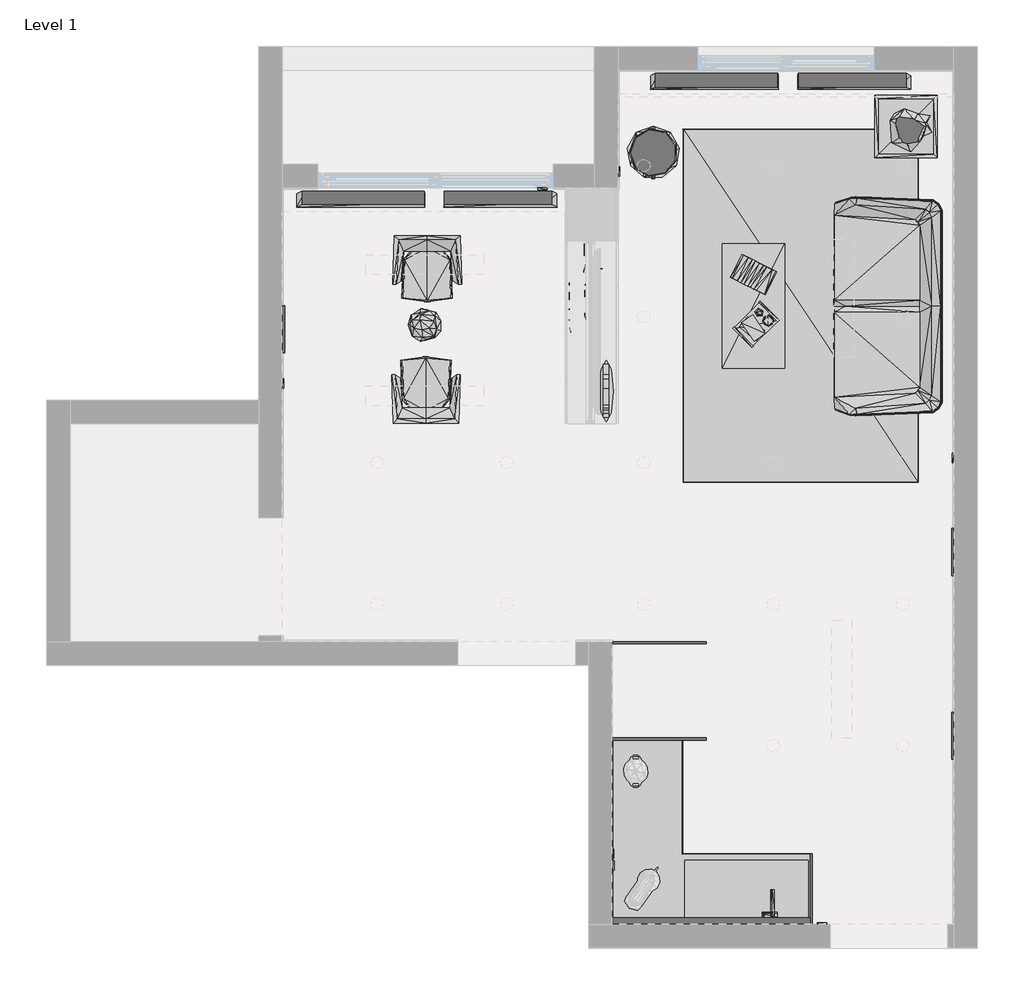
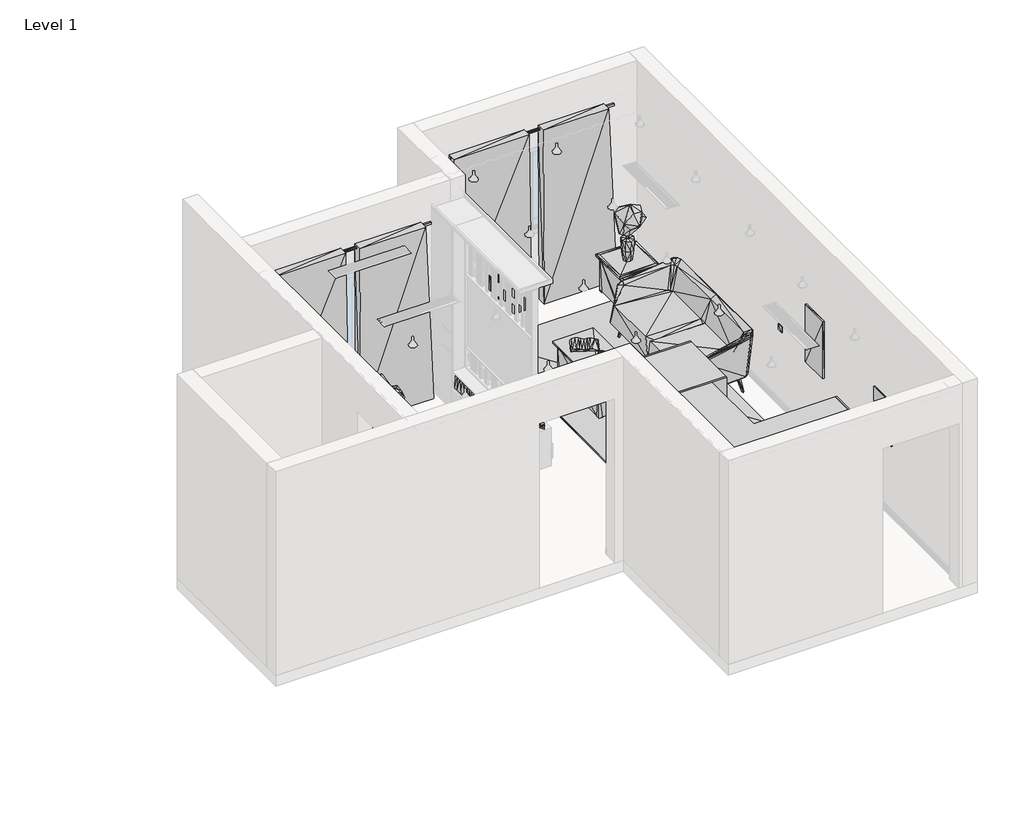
# One storey, part 4 of 4: 28 geographic elements, 2 proxies.
"""IFC4 building model written with IfcOpenShell, lengths in millimetres."""

from ifc_helpers import new_model, si_unit, origin, place, context, project, spatial, transform, mapped, element, save
from components import generic_models_adb6d911, kitchen_kitchen_3edbeb36, geographic_element_de3b21ac, enscape_assetdefinition_books_11_enscape_assetdefinition_afcb8159, enscape_assetdefinition_curtain_09_enscape_assetdefinition_daeb34b5, enscape_assetdefinition_floor_lamp_12_enscape_8a8a6cb6, enscape_assetdefinition_interior_plant_79_enscape_2944c8c8, enscape_assetdefinition_interior_plant_84_enscape_4a8b0236, enscape_assetdefinition_light_switch_enscape_assetdefinition_f65dbdaa, enscape_assetdefinition_lounge_armchair_09_enscape_0de7779d, enscape_assetdefinition_open_book_enscape_assetdefinition_ceea0857, enscape_assetdefinition_photo_frame_enscape_assetdefinition_5837e575, enscape_assetdefinition_picture_frame_portrait_enscape_684294eb, enscape_assetdefinition_power_socket_enscape_assetdefinition_6a6208d7, enscape_assetdefinition_rug_05_enscape_assetdefinition_rug_c4f60c79, enscape_assetdefinition_side_table_06_enscape_d0498537, enscape_assetdefinition_side_table_07_enscape_9afeb607, enscape_assetdefinition_sofa_16_enscape_assetdefinition_sofa_628b30d1, enscape_assetdefinition_tap_enscape_assetdefinition_tap_beeff97c, enscape_assetdefinition_wall_frame_02_enscape_4efbea40, enscape_assetdefinition_wall_frame_03_enscape_afdf1664, enscape_assetdefinition_wall_frame_enscape_assetdefinition_9bfa83ed

model = new_model("IFC4")

# Units and contexts
model_context = context("Model", 3, world=origin())
ifc_project = project(units=[si_unit("LENGTHUNIT", "METRE", prefix="MILLI")], contexts=[model_context])

# Site, building, storey
site = spatial("IfcSite", under=ifc_project)
building = spatial("IfcBuilding", under=site)
storey = spatial("IfcBuildingStorey", under=building, Name="Level 1", Elevation=0.0)

# Proxies
placement = place(None, origin())
generic_models_shape = generic_models_adb6d911(model_context)
element("IfcBuildingElementProxy", 1, Name="ArcPro Statue : ArcPro Statue", ObjectType="ArcPro Statue : ArcPro Statue", at=placement, inside=storey, context=model_context, shape_type="MappedRepresentation", body=[
    mapped(generic_models_shape, transform((-1044.2014964, -1218.7013538, 530.0), x_axis=(0.0, 1.0, 0.0), y_axis=(-1.0, 0.0, 0.0), z_axis=(0.0, 0.0, 1.0))),
])
kitchen_kitchen_shape = kitchen_kitchen_3edbeb36(model_context)
element("IfcBuildingElementProxy", 2, Name="kitchen : kitchen", ObjectType="kitchen : kitchen", at=placement, inside=storey, context=model_context, shape_type="MappedRepresentation", body=[
    mapped(kitchen_kitchen_shape, transform((0.0, 0.0, 0.0), x_axis=(1.0, 0.0, 0.0), y_axis=(0.0, 1.0, 0.0), z_axis=(0.0, 0.0, 1.0))),
])

# Geographic elements
geographic_element_shape = geographic_element_de3b21ac(model_context)
element("IfcGeographicElement", 3, ObjectType="Enscape AssetDefinition - Decoration Collection 02 : Enscape AssetDefinition - Decoration Collection 02", at=placement, inside=storey, context=model_context, shape_type="MappedRepresentation", body=[
    mapped(geographic_element_shape, transform((228.582816, -588.1307609, 499.9), x_axis=(0.7071067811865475, 0.7071067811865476, 0.0), y_axis=(-0.7071067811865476, 0.7071067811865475, 0.0), z_axis=(0.0, 0.0, 1.0))),
])
enscape_assetdefinition_books_11_enscape_assetdefinition_shape = enscape_assetdefinition_books_11_enscape_assetdefinition_afcb8159(model_context)
element("IfcGeographicElement", 4, ObjectType="Enscape AssetDefinition - Books 11 : Enscape AssetDefinition - Books 11", at=placement, inside=storey, context=model_context, shape_type="MappedRepresentation", body=[
    mapped(enscape_assetdefinition_books_11_enscape_assetdefinition_shape, transform((-1288.5397433, -274.0270279, 300.0), x_axis=(0.0, -1.0, 0.0), y_axis=(1.0, 0.0, 0.0), z_axis=(0.0, 0.0, 1.0))),
])
enscape_assetdefinition_curtain_09_enscape_assetdefinition_shape = enscape_assetdefinition_curtain_09_enscape_assetdefinition_daeb34b5(model_context)
element("IfcGeographicElement", 5, ObjectType="Enscape AssetDefinition - Curtain 09 : Enscape AssetDefinition - Curtain 09", at=placement, inside=storey, context=model_context, shape_type="MappedRepresentation", body=[
    mapped(enscape_assetdefinition_curtain_09_enscape_assetdefinition_shape, transform((-2572.1161882, 568.9239272, 0.0), x_axis=(1.0, 0.0, 0.0), y_axis=(0.0, 1.0, 0.0), z_axis=(0.0, 0.0, 1.0))),
])
element("IfcGeographicElement", 6, ObjectType="Enscape AssetDefinition - Curtain 09 : Enscape AssetDefinition - Curtain 09", at=placement, inside=storey, context=model_context, shape_type="MappedRepresentation", body=[
    mapped(enscape_assetdefinition_curtain_09_enscape_assetdefinition_shape, transform((430.1403312, 1568.9239272, 0.0), x_axis=(1.0, 0.0, 0.0), y_axis=(0.0, 1.0, 0.0), z_axis=(0.0, 0.0, 1.0))),
])
enscape_assetdefinition_floor_lamp_12_enscape_shape = enscape_assetdefinition_floor_lamp_12_enscape_8a8a6cb6(model_context)
element("IfcGeographicElement", 7, ObjectType="Enscape AssetDefinition - Floor Lamp 12 : Enscape AssetDefinition - Floor Lamp 12", at=placement, inside=storey, context=model_context, shape_type="MappedRepresentation", body=[
    mapped(enscape_assetdefinition_floor_lamp_12_enscape_shape, transform((-642.1161882, 868.9239272, 0.0), x_axis=(0.0, 1.0, 0.0), y_axis=(-1.0, 0.0, 0.0), z_axis=(0.0, 0.0, 1.0))),
])
enscape_assetdefinition_interior_plant_79_enscape_shape = enscape_assetdefinition_interior_plant_79_enscape_2944c8c8(model_context)
element("IfcGeographicElement", 8, ObjectType="Enscape AssetDefinition - Interior Plant 79 : Enscape AssetDefinition - Interior Plant 79", at=placement, inside=storey, context=model_context, shape_type="MappedRepresentation", body=[
    mapped(enscape_assetdefinition_interior_plant_79_enscape_shape, transform((1502.8838118, 1088.9239272, 499.9), x_axis=(1.0, 0.0, 0.0), y_axis=(0.0, 1.0, 0.0), z_axis=(0.0, 0.0, 1.0))),
])
enscape_assetdefinition_interior_plant_84_enscape_shape = enscape_assetdefinition_interior_plant_84_enscape_4a8b0236(model_context)
element("IfcGeographicElement", 9, ObjectType="Enscape AssetDefinition - Interior Plant 84 : Enscape AssetDefinition - Interior Plant 84", at=placement, inside=storey, context=model_context, shape_type="MappedRepresentation", body=[
    mapped(enscape_assetdefinition_interior_plant_84_enscape_shape, transform((-2582.1161882, -596.0760728, 750.3478527), x_axis=(1.0, 0.0, 0.0), y_axis=(0.0, 1.0, 0.0), z_axis=(0.0, 0.0, 1.0))),
])
enscape_assetdefinition_light_switch_enscape_assetdefinition_shape = enscape_assetdefinition_light_switch_enscape_assetdefinition_f65dbdaa(model_context)
element("IfcGeographicElement", 10, ObjectType="Enscape AssetDefinition - Light Switch : Enscape AssetDefinition - Light Switch", at=placement, inside=storey, context=model_context, shape_type="MappedRepresentation", body=[
    mapped(enscape_assetdefinition_light_switch_enscape_assetdefinition_shape, transform((787.8838118, -5681.0760728, 1100.0), x_axis=(-1.0, 0.0, 0.0), y_axis=(0.0, -1.0, 0.0), z_axis=(0.0, 0.0, 1.0))),
])
element("IfcGeographicElement", 11, ObjectType="Enscape AssetDefinition - Light Switch : Enscape AssetDefinition - Light Switch", at=placement, inside=storey, context=model_context, shape_type="MappedRepresentation", body=[
    mapped(enscape_assetdefinition_light_switch_enscape_assetdefinition_shape, transform((-3792.1161882, -1091.0760728, 1100.0), x_axis=(0.0, 1.0, 0.0), y_axis=(-1.0, 0.0, 0.0), z_axis=(0.0, 0.0, 1.0))),
])
element("IfcGeographicElement", 12, ObjectType="Enscape AssetDefinition - Light Switch : Enscape AssetDefinition - Light Switch", at=placement, inside=storey, context=model_context, shape_type="MappedRepresentation", body=[
    mapped(enscape_assetdefinition_light_switch_enscape_assetdefinition_shape, transform((-942.1161882, 708.9239272, 1100.0), x_axis=(0.0, 1.0, 0.0), y_axis=(-1.0, 0.0, 0.0), z_axis=(0.0, 0.0, 1.0))),
])
element("IfcGeographicElement", 13, ObjectType="Enscape AssetDefinition - Light Switch : Enscape AssetDefinition - Light Switch", at=placement, inside=storey, context=model_context, shape_type="MappedRepresentation", body=[
    mapped(enscape_assetdefinition_light_switch_enscape_assetdefinition_shape, transform((-1582.1161882, 568.9239272, 1100.0), x_axis=(1.0, 0.0, 0.0), y_axis=(0.0, 1.0, 0.0), z_axis=(0.0, 0.0, 1.0))),
])
element("IfcGeographicElement", 14, ObjectType="Enscape AssetDefinition - Light Switch : Enscape AssetDefinition - Light Switch", at=placement, inside=storey, context=model_context, shape_type="MappedRepresentation", body=[
    mapped(enscape_assetdefinition_light_switch_enscape_assetdefinition_shape, transform((1907.8838118, -1721.0760728, 1100.0), x_axis=(0.0, -1.0, 0.0), y_axis=(1.0, 0.0, 0.0), z_axis=(0.0, 0.0, 1.0))),
])
enscape_assetdefinition_lounge_armchair_09_enscape_shape = enscape_assetdefinition_lounge_armchair_09_enscape_0de7779d(model_context)
element("IfcGeographicElement", 15, ObjectType="Enscape AssetDefinition - Lounge Armchair 09 : Enscape AssetDefinition - Lounge Armchair 09", at=placement, inside=storey, context=model_context, shape_type="MappedRepresentation", body=[
    mapped(enscape_assetdefinition_lounge_armchair_09_enscape_shape, transform((-2562.1161882, -131.0760728, 0.0), x_axis=(1.0, 0.0, 0.0), y_axis=(0.0, 1.0, 0.0), z_axis=(0.0, 0.0, 1.0))),
])
element("IfcGeographicElement", 16, ObjectType="Enscape AssetDefinition - Lounge Armchair 09 : Enscape AssetDefinition - Lounge Armchair 09", at=placement, inside=storey, context=model_context, shape_type="MappedRepresentation", body=[
    mapped(enscape_assetdefinition_lounge_armchair_09_enscape_shape, transform((-2572.1161882, -1131.0760728, 0.0), x_axis=(-1.0, 0.0, 0.0), y_axis=(0.0, -1.0, 0.0), z_axis=(0.0, 0.0, 1.0))),
])
enscape_assetdefinition_open_book_enscape_assetdefinition_shape = enscape_assetdefinition_open_book_enscape_assetdefinition_ceea0857(model_context)
element("IfcGeographicElement", 17, ObjectType="Enscape AssetDefinition - Open Book : Enscape AssetDefinition - Open Book", at=placement, inside=storey, context=model_context, shape_type="MappedRepresentation", body=[
    mapped(enscape_assetdefinition_open_book_enscape_assetdefinition_shape, transform((207.8838118, -166.0704511, 499.9), x_axis=(-0.8938925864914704, 0.4482812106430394, 0.0), y_axis=(-0.4482812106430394, -0.8938925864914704, 0.0), z_axis=(0.0, 0.0, 1.0))),
])
enscape_assetdefinition_photo_frame_enscape_assetdefinition_shape = enscape_assetdefinition_photo_frame_enscape_assetdefinition_5837e575(model_context)
element("IfcGeographicElement", 18, ObjectType="Enscape AssetDefinition - Photo Frame : Enscape AssetDefinition - Photo Frame", at=placement, inside=storey, context=model_context, shape_type="MappedRepresentation", body=[
    mapped(enscape_assetdefinition_photo_frame_enscape_assetdefinition_shape, transform((-1014.5400634, -1133.0357048, 300.0), x_axis=(0.0, 1.0, 0.0), y_axis=(-1.0, 0.0, 0.0), z_axis=(0.0, 0.0, 1.0))),
])
enscape_assetdefinition_picture_frame_portrait_enscape_shape = enscape_assetdefinition_picture_frame_portrait_enscape_684294eb(model_context)
element("IfcGeographicElement", 19, ObjectType="Enscape AssetDefinition - Picture Frame Portrait : Enscape AssetDefinition - Picture Frame Portrait", at=placement, inside=storey, context=model_context, shape_type="MappedRepresentation", body=[
    mapped(enscape_assetdefinition_picture_frame_portrait_enscape_shape, transform((-1085.5272031, -192.4418694, 300.0), x_axis=(1.0, 0.0, 0.0), y_axis=(0.0, 1.0, 0.0), z_axis=(0.0, 0.0, 1.0))),
])
enscape_assetdefinition_power_socket_enscape_assetdefinition_shape = enscape_assetdefinition_power_socket_enscape_assetdefinition_6a6208d7(model_context)
element("IfcGeographicElement", 20, ObjectType="Enscape AssetDefinition - Power Socket : Enscape AssetDefinition - Power Socket", at=placement, inside=storey, context=model_context, shape_type="MappedRepresentation", body=[
    mapped(enscape_assetdefinition_power_socket_enscape_assetdefinition_shape, transform((-942.1161882, 708.9239272, 300.0), x_axis=(0.0, 1.0, 0.0), y_axis=(-1.0, 0.0, 0.0), z_axis=(0.0, 0.0, 1.0))),
])
element("IfcGeographicElement", 21, ObjectType="Enscape AssetDefinition - Power Socket : Enscape AssetDefinition - Power Socket", at=placement, inside=storey, context=model_context, shape_type="MappedRepresentation", body=[
    mapped(enscape_assetdefinition_power_socket_enscape_assetdefinition_shape, transform((-1582.1161882, 568.9239272, 300.0), x_axis=(1.0, 0.0, 0.0), y_axis=(0.0, 1.0, 0.0), z_axis=(0.0, 0.0, 1.0))),
])
element("IfcGeographicElement", 22, ObjectType="Enscape AssetDefinition - Power Socket : Enscape AssetDefinition - Power Socket", at=placement, inside=storey, context=model_context, shape_type="MappedRepresentation", body=[
    mapped(enscape_assetdefinition_power_socket_enscape_assetdefinition_shape, transform((-3792.1161882, -1091.0760728, 300.0), x_axis=(0.0, 1.0, 0.0), y_axis=(-1.0, 0.0, 0.0), z_axis=(0.0, 0.0, 1.0))),
])
enscape_assetdefinition_rug_05_enscape_assetdefinition_rug_shape = enscape_assetdefinition_rug_05_enscape_assetdefinition_rug_c4f60c79(model_context)
element("IfcGeographicElement", 23, ObjectType="Enscape AssetDefinition - Rug 05 : Enscape AssetDefinition - Rug 05", at=placement, inside=storey, context=model_context, shape_type="MappedRepresentation", body=[
    mapped(enscape_assetdefinition_rug_05_enscape_assetdefinition_rug_shape, transform((607.8838118, -431.0760728, 0.0), x_axis=(1.0, 0.0, 0.0), y_axis=(0.0, 1.0, 0.0), z_axis=(0.0, 0.0, 1.0))),
])
enscape_assetdefinition_side_table_06_enscape_shape = enscape_assetdefinition_side_table_06_enscape_d0498537(model_context)
element("IfcGeographicElement", 24, ObjectType="Enscape AssetDefinition - Side Table 06 : Enscape AssetDefinition - Side Table 06", at=placement, inside=storey, context=model_context, shape_type="MappedRepresentation", body=[
    mapped(enscape_assetdefinition_side_table_06_enscape_shape, transform((1502.8838118, 1088.9239272, 0.0), x_axis=(1.0, 0.0, 0.0), y_axis=(0.0, 1.0, 0.0), z_axis=(0.0, 0.0, 1.0))),
])
enscape_assetdefinition_side_table_07_enscape_shape = enscape_assetdefinition_side_table_07_enscape_9afeb607(model_context)
element("IfcGeographicElement", 25, ObjectType="Enscape AssetDefinition - Side Table 07 : Enscape AssetDefinition - Side Table 07", at=placement, inside=storey, context=model_context, shape_type="MappedRepresentation", body=[
    mapped(enscape_assetdefinition_side_table_07_enscape_shape, transform((207.8838118, -431.0760728, 0.0), x_axis=(1.0, 0.0, 0.0), y_axis=(0.0, 1.0, 0.0), z_axis=(0.0, 0.0, 1.0))),
])
enscape_assetdefinition_sofa_16_enscape_assetdefinition_sofa_shape = enscape_assetdefinition_sofa_16_enscape_assetdefinition_sofa_628b30d1(model_context)
element("IfcGeographicElement", 26, ObjectType="Enscape AssetDefinition - Sofa 16 : Enscape AssetDefinition - Sofa 16", at=placement, inside=storey, context=model_context, shape_type="MappedRepresentation", body=[
    mapped(enscape_assetdefinition_sofa_16_enscape_assetdefinition_sofa_shape, transform((1327.0946972, -435.6171443, 0.0), x_axis=(0.0, -1.0, 0.0), y_axis=(1.0, 0.0, 0.0), z_axis=(0.0, 0.0, 1.0))),
])
enscape_assetdefinition_tap_enscape_assetdefinition_tap_shape = enscape_assetdefinition_tap_enscape_assetdefinition_tap_beeff97c(model_context)
element("IfcGeographicElement", 27, ObjectType="Enscape AssetDefinition - Tap : Enscape AssetDefinition - Tap", at=placement, inside=storey, context=model_context, shape_type="MappedRepresentation", body=[
    mapped(enscape_assetdefinition_tap_enscape_assetdefinition_tap_shape, transform((368.2731147, -5506.0760728, 831.9), x_axis=(0.0, -1.0, 0.0), y_axis=(1.0, 0.0, 0.0), z_axis=(0.0, 0.0, 1.0))),
])
enscape_assetdefinition_wall_frame_02_enscape_shape = enscape_assetdefinition_wall_frame_02_enscape_4efbea40(model_context)
element("IfcGeographicElement", 28, ObjectType="Enscape AssetDefinition - Wall Frame 02 : Enscape AssetDefinition - Wall Frame 02", at=placement, inside=storey, context=model_context, shape_type="MappedRepresentation", body=[
    mapped(enscape_assetdefinition_wall_frame_02_enscape_shape, transform((-3792.1161882, -631.0760728, 1000.0), x_axis=(0.0, 1.0, 0.0), y_axis=(-1.0, 0.0, 0.0), z_axis=(0.0, 0.0, 1.0))),
])
enscape_assetdefinition_wall_frame_03_enscape_shape = enscape_assetdefinition_wall_frame_03_enscape_afdf1664(model_context)
element("IfcGeographicElement", 29, ObjectType="Enscape AssetDefinition - Wall Frame 03 : Enscape AssetDefinition - Wall Frame 03", at=placement, inside=storey, context=model_context, shape_type="MappedRepresentation", body=[
    mapped(enscape_assetdefinition_wall_frame_03_enscape_shape, transform((1907.8838118, -2521.0760728, 1000.0), x_axis=(0.0, -1.0, 0.0), y_axis=(1.0, 0.0, 0.0), z_axis=(0.0, 0.0, 1.0))),
])
enscape_assetdefinition_wall_frame_enscape_assetdefinition_shape = enscape_assetdefinition_wall_frame_enscape_assetdefinition_9bfa83ed(model_context)
element("IfcGeographicElement", 30, ObjectType="Enscape AssetDefinition - Wall Frame : Enscape AssetDefinition - Wall Frame", at=placement, inside=storey, context=model_context, shape_type="MappedRepresentation", body=[
    mapped(enscape_assetdefinition_wall_frame_enscape_assetdefinition_shape, transform((1907.8838118, -4081.0760728, 1000.0), x_axis=(0.0, -1.0, 0.0), y_axis=(1.0, 0.0, 0.0), z_axis=(0.0, 0.0, 1.0))),
])

save(model, "model.ifc")
